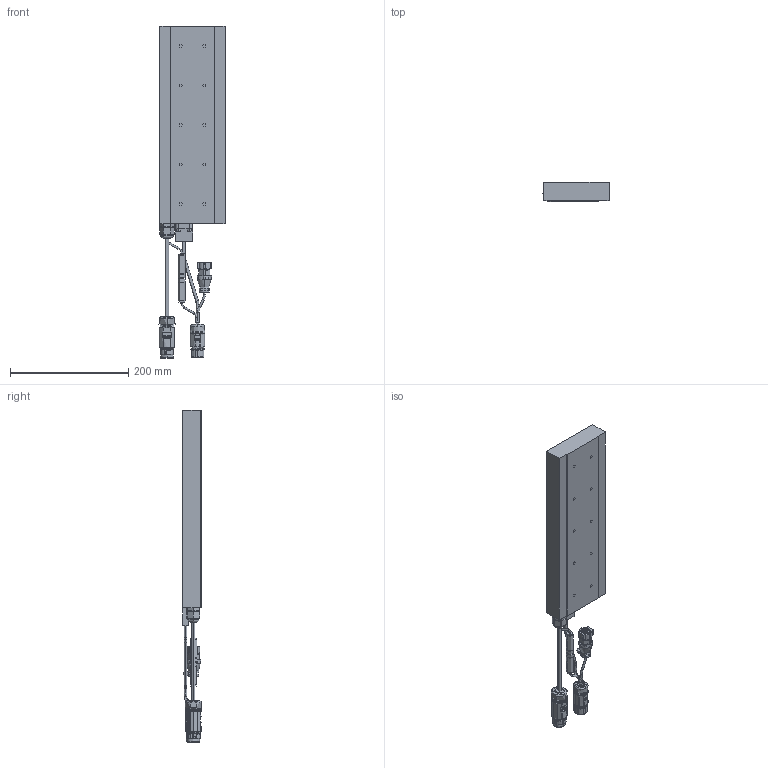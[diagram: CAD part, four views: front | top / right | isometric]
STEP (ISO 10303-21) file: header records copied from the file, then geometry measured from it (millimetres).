
FILE_DESCRIPTION((''),'2;1');
FILE_NAME('LDC-C075300-DHT11_ASM','2009-04-15T',('Freds'),('Rockwell Automation'),'PRO/ENGINEER BY PARAMETRIC TECHNOLOGY CORPORATION, 2004490','PRO/ENGINEER BY PARAMETRIC TECHNOLOGY CORPORATION, 2004490','');
FILE_SCHEMA(('CONFIG_CONTROL_DESIGN'));
Products named in the file (15): LDC-C075300; 91787; LCHALL; HALLMODCAB; LCHALLMODULE_ASM; MSCS0503_SS; LDCCABLE; 808567; 805243; A805449; A805448; A805436; A805434; LDCCABLEASM_ASM; LDC-C075300-DHT11_ASM
Assembly tree (15 placements, depth 3):
  LDC-C075300-DHT11_ASM
    LDC-C075300
    91787
    LCHALLMODULE_ASM
      LCHALL
      HALLMODCAB
    MSCS0503_SS  x2
    LDCCABLEASM_ASM
      LDCCABLE
      808567
      805243
      A805449
      A805448
      A805436
      A805434
Bounding box: 111.6 x 31.94 x 560.69 mm (x, y, z)
Topology: 11 solids, 17 shells, 2436 faces, 6490 edges, 4199 vertices
Faces by surface type: plane 812, cylinder 726, torus 301, bspline 300, cone 166, sphere 96, extrusion 35
Entity records: 100593 total; most frequent: CARTESIAN_POINT 41309, ORIENTED_EDGE 12702, DIRECTION 12115, EDGE_CURVE 6354, AXIS2_PLACEMENT_3D 4799, VERTEX_POINT 4159, CIRCLE 2693, EDGE_LOOP 2593
